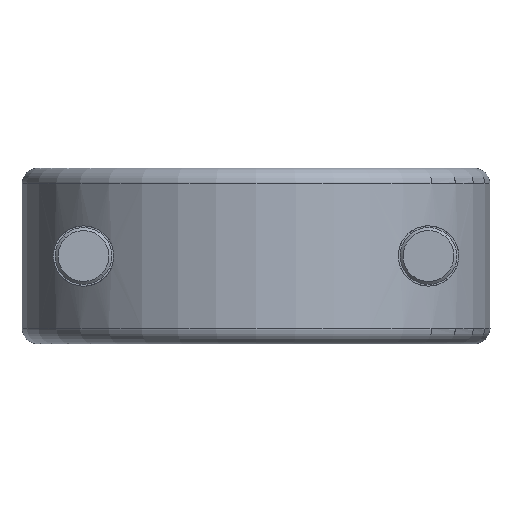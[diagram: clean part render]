
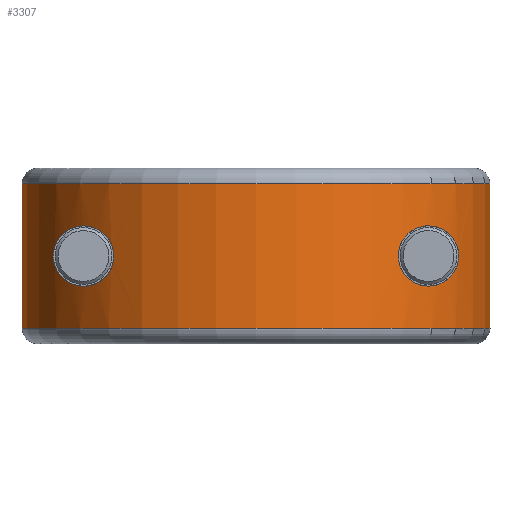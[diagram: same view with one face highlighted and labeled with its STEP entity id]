
A CAD part, front view. The second image highlights one B-rep face of the part: STEP entity #3307.
In plain terms, the highlighted cylindrical face has radius 20 mm (diameter 40 mm), a partial arc.
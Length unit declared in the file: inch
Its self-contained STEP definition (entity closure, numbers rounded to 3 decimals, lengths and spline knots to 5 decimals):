
#2665=CARTESIAN_POINT('',(0.78678,-0.0313,
0.05314));
#2819=CARTESIAN_POINT('',(0.,0.,0.5374));
#2820=DIRECTION('',(0.,0.,1.));
#2821=DIRECTION('',(-0.999,-0.04,0.));
#2822=AXIS2_PLACEMENT_3D('',#2819,#2820,#2821);
#2824=DIRECTION('',(0.,0.,-1.));
#2825=VECTOR('',#2824,0.48427);
#2826=CARTESIAN_POINT('',(0.78678,-0.0313,
0.53741));
#2827=LINE('',#2826,#2825);
#2828=CARTESIAN_POINT('',(0.,0.,0.05315));
#2829=DIRECTION('',(0.,0.,-1.));
#2830=DIRECTION('',(0.999,-0.04,0.));
#2831=AXIS2_PLACEMENT_3D('',#2828,#2829,#2830);
#2833=DIRECTION('',(0.,0.,1.));
#2834=VECTOR('',#2833,0.48427);
#2835=CARTESIAN_POINT('',(-0.78678,-0.0313,
0.05314));
#2836=LINE('',#2835,#2834);
#2837=CARTESIAN_POINT('',(-0.58,-0.53254,0.39684));
#2838=CARTESIAN_POINT('',(-0.5717,-0.54159,0.39684));
#2839=CARTESIAN_POINT('',(-0.55575,-0.55811,
0.39481));
#2840=CARTESIAN_POINT('',(-0.5342,-0.57869,
0.38684));
#2841=CARTESIAN_POINT('',(-0.51574,-0.59513,
0.37489));
#2842=CARTESIAN_POINT('',(-0.50082,-0.60768,
0.35999));
#2843=CARTESIAN_POINT('',(-0.48955,-0.61675,
0.34293));
#2844=CARTESIAN_POINT('',(-0.48207,-0.62259,
0.32447));
#2845=CARTESIAN_POINT('',(-0.47828,-0.6255,
0.30515));
#2846=CARTESIAN_POINT('',(-0.47829,-0.62549,
0.28549));
#2847=CARTESIAN_POINT('',(-0.48206,-0.6226,
0.26619));
#2848=CARTESIAN_POINT('',(-0.48949,-0.61681,
0.24775));
#2849=CARTESIAN_POINT('',(-0.5007,-0.60777,
0.23071));
#2850=CARTESIAN_POINT('',(-0.51556,-0.59528,
0.2158));
#2851=CARTESIAN_POINT('',(-0.534,-0.57887,
0.20381));
#2852=CARTESIAN_POINT('',(-0.55559,-0.55827,
0.19577));
#2853=CARTESIAN_POINT('',(-0.57163,-0.54165,
0.19371));
#2854=CARTESIAN_POINT('',(-0.58,-0.53254,0.19371));
#2856=CARTESIAN_POINT('',(0.58,-0.53254,0.19371));
#2857=CARTESIAN_POINT('',(0.57168,-0.54161,
0.19371));
#2858=CARTESIAN_POINT('',(0.55571,-0.55815,
0.19569));
#2859=CARTESIAN_POINT('',(0.53416,-0.57873,
0.20362));
#2860=CARTESIAN_POINT('',(0.51576,-0.59511,
0.21565));
#2861=CARTESIAN_POINT('',(0.50091,-0.6076,
0.23053));
#2862=CARTESIAN_POINT('',(0.48963,-0.6167,
0.24747));
#2863=CARTESIAN_POINT('',(0.48217,-0.62252,
0.26587));
#2864=CARTESIAN_POINT('',(0.47831,-0.62548,
0.28515));
#2865=CARTESIAN_POINT('',(0.47827,-0.62551,
0.30485));
#2866=CARTESIAN_POINT('',(0.48202,-0.62263,
0.32413));
#2867=CARTESIAN_POINT('',(0.48933,-0.61693,
0.34252));
#2868=CARTESIAN_POINT('',(0.50047,-0.60796,
0.35952));
#2869=CARTESIAN_POINT('',(0.51524,-0.59556,
0.37447));
#2870=CARTESIAN_POINT('',(0.53364,-0.57921,
0.38668));
#2871=CARTESIAN_POINT('',(0.55535,-0.55852,
0.39481));
#2872=CARTESIAN_POINT('',(0.57154,-0.54175,0.39684));
#2873=CARTESIAN_POINT('',(0.58,-0.53254,0.39684));
#2875=CARTESIAN_POINT('',(0.58,-0.53254,0.39684));
#2876=CARTESIAN_POINT('',(0.58882,-0.52294,0.39684));
#2877=CARTESIAN_POINT('',(0.60496,-0.50441,
0.3946));
#2878=CARTESIAN_POINT('',(0.62515,-0.47905,
0.38704));
#2879=CARTESIAN_POINT('',(0.64168,-0.45658,
0.37668));
#2880=CARTESIAN_POINT('',(0.65492,-0.4373,
0.36458));
#2881=CARTESIAN_POINT('',(0.66535,-0.42119,
0.3512));
#2882=CARTESIAN_POINT('',(0.67325,-0.40841,
0.33659));
#2883=CARTESIAN_POINT('',(0.67868,-0.39926,
0.321));
#2884=CARTESIAN_POINT('',(0.68175,-0.39398,
0.30358));
#2885=CARTESIAN_POINT('',(0.68162,-0.39421,
0.28564));
#2886=CARTESIAN_POINT('',(0.67842,-0.39972,
0.26859));
#2887=CARTESIAN_POINT('',(0.67297,-0.40886,
0.2534));
#2888=CARTESIAN_POINT('',(0.66517,-0.42148,
0.2391));
#2889=CARTESIAN_POINT('',(0.65479,-0.4375,
0.22583));
#2890=CARTESIAN_POINT('',(0.64153,-0.45679,
0.21376));
#2891=CARTESIAN_POINT('',(0.62497,-0.47929,
0.20343));
#2892=CARTESIAN_POINT('',(0.60478,-0.50462,
0.19591));
#2893=CARTESIAN_POINT('',(0.58874,-0.52302,
0.19371));
#2894=CARTESIAN_POINT('',(0.58,-0.53254,0.19371));
#2930=CARTESIAN_POINT('',(-0.58,-0.53254,0.39684));
#2931=CARTESIAN_POINT('',(-0.58878,-0.52298,0.39684));
#2932=CARTESIAN_POINT('',(-0.60497,-0.50432,
0.39459));
#2933=CARTESIAN_POINT('',(-0.62514,-0.47895,
0.38701));
#2934=CARTESIAN_POINT('',(-0.64173,-0.45652,
0.37664));
#2935=CARTESIAN_POINT('',(-0.65494,-0.43725,
0.36454));
#2936=CARTESIAN_POINT('',(-0.66532,-0.42118,
0.3512));
#2937=CARTESIAN_POINT('',(-0.67321,-0.4085,
0.33668));
#2938=CARTESIAN_POINT('',(-0.67867,-0.39938,
0.32123));
#2939=CARTESIAN_POINT('',(-0.68172,-0.39404,
0.30394));
#2940=CARTESIAN_POINT('',(-0.68166,-0.39415,
0.28605));
#2941=CARTESIAN_POINT('',(-0.67856,-0.39958,
0.26895));
#2942=CARTESIAN_POINT('',(-0.67312,-0.40863,
0.25368));
#2943=CARTESIAN_POINT('',(-0.6653,-0.42123,
0.23933));
#2944=CARTESIAN_POINT('',(-0.65494,-0.43723,
0.22601));
#2945=CARTESIAN_POINT('',(-0.64172,-0.45654,
0.2139));
#2946=CARTESIAN_POINT('',(-0.62509,-0.47902,
0.20351));
#2947=CARTESIAN_POINT('',(-0.6049,-0.50441,
0.19594));
#2948=CARTESIAN_POINT('',(-0.58875,-0.52301,
0.19371));
#2949=CARTESIAN_POINT('',(-0.58,-0.53254,0.19371));
#2990=CARTESIAN_POINT('',(-0.58,-0.53254,0.19371));
#2992=VERTEX_POINT('',#2990);
#2994=VERTEX_POINT('',#2930);
#2997=VERTEX_POINT('',#2856);
#2998=VERTEX_POINT('',#2873);
#2999=CARTESIAN_POINT('',(-0.78678,-0.0313,
0.5374));
#3000=CARTESIAN_POINT('',(0.78678,-0.0313,
0.5374));
#3001=VERTEX_POINT('',#2999);
#3002=VERTEX_POINT('',#3000);
#3007=CARTESIAN_POINT('',(-0.78678,-0.0313,
0.05314));
#3008=VERTEX_POINT('',#3007);
#3047=VERTEX_POINT('',#2665);
#3283=CARTESIAN_POINT('',(0.,0.,0.05315));
#3284=DIRECTION('',(0.,0.,-1.));
#3285=DIRECTION('',(-1.,0.,0.));
#3286=AXIS2_PLACEMENT_3D('',#3283,#3284,#3285);
#3287=CYLINDRICAL_SURFACE('',#3286,0.7874);
#3288=ORIENTED_EDGE('',*,*,#3268,.T.);
#3289=ORIENTED_EDGE('',*,*,#3127,.T.);
#3291=ORIENTED_EDGE('',*,*,#3290,.T.);
#3292=ORIENTED_EDGE('',*,*,#3224,.T.);
#3293=EDGE_LOOP('',(#3288,#3289,#3291,#3292));
#3294=FACE_OUTER_BOUND('',#3293,.F.);
#3296=ORIENTED_EDGE('',*,*,#3295,.T.);
#3298=ORIENTED_EDGE('',*,*,#3297,.F.);
#3299=EDGE_LOOP('',(#3296,#3298));
#3300=FACE_BOUND('',#3299,.F.);
#3302=ORIENTED_EDGE('',*,*,#3301,.F.);
#3304=ORIENTED_EDGE('',*,*,#3303,.F.);
#3305=EDGE_LOOP('',(#3302,#3304));
#3306=FACE_BOUND('',#3305,.F.);
#2823=CIRCLE('',#2822,0.7874);
#2832=CIRCLE('',#2831,0.7874);
#2855=B_SPLINE_CURVE_WITH_KNOTS('',3,(#2837,#2838,#2839,#2840,#2841,#2842,#2843,
#2844,#2845,#2846,#2847,#2848,#2849,#2850,#2851,#2852,#2853,#2854),
.UNSPECIFIED.,.F.,.F.,(4,1,1,1,1,1,1,1,1,1,1,1,1,1,1,4),(0.,0.06667,
0.13333,0.2,0.26667,0.33333,0.4,
0.46667,0.53333,0.6,0.66667,0.73333,
0.8,0.86667,0.93333,1.),.UNSPECIFIED.);
#2874=B_SPLINE_CURVE_WITH_KNOTS('',3,(#2856,#2857,#2858,#2859,#2860,#2861,#2862,
#2863,#2864,#2865,#2866,#2867,#2868,#2869,#2870,#2871,#2872,#2873),
.UNSPECIFIED.,.F.,.F.,(4,1,1,1,1,1,1,1,1,1,1,1,1,1,1,4),(0.,0.06667,
0.13333,0.2,0.26667,0.33333,0.4,
0.46667,0.53333,0.6,0.66667,0.73333,
0.8,0.86667,0.93333,1.),.UNSPECIFIED.);
#2895=B_SPLINE_CURVE_WITH_KNOTS('',3,(#2875,#2876,#2877,#2878,#2879,#2880,#2881,
#2882,#2883,#2884,#2885,#2886,#2887,#2888,#2889,#2890,#2891,#2892,#2893,#2894),
.UNSPECIFIED.,.F.,.F.,(4,1,1,1,1,1,1,1,1,1,1,1,1,1,1,1,1,4),(0.,
0.05882,0.11765,0.17647,0.23529,
0.29412,0.35294,0.41176,0.47059,
0.52941,0.58824,0.64706,0.70588,
0.76471,0.82353,0.88235,0.94118,1.),
.UNSPECIFIED.);
#2950=B_SPLINE_CURVE_WITH_KNOTS('',3,(#2930,#2931,#2932,#2933,#2934,#2935,#2936,
#2937,#2938,#2939,#2940,#2941,#2942,#2943,#2944,#2945,#2946,#2947,#2948,#2949),
.UNSPECIFIED.,.F.,.F.,(4,1,1,1,1,1,1,1,1,1,1,1,1,1,1,1,1,4),(0.,
0.05882,0.11765,0.17647,0.23529,
0.29412,0.35294,0.41176,0.47059,
0.52941,0.58824,0.64706,0.70588,
0.76471,0.82353,0.88235,0.94118,1.),
.UNSPECIFIED.);
#3127=EDGE_CURVE('',#3002,#3047,#2827,.T.);
#3224=EDGE_CURVE('',#3008,#3001,#2836,.T.);
#3268=EDGE_CURVE('',#3001,#3002,#2823,.T.);
#3290=EDGE_CURVE('',#3047,#3008,#2832,.T.);
#3295=EDGE_CURVE('',#2994,#2992,#2950,.T.);
#3297=EDGE_CURVE('',#2994,#2992,#2855,.T.);
#3301=EDGE_CURVE('',#2997,#2998,#2874,.T.);
#3303=EDGE_CURVE('',#2998,#2997,#2895,.T.);
#3307=ADVANCED_FACE('',(#3294,#3300,#3306),#3287,.T.);
